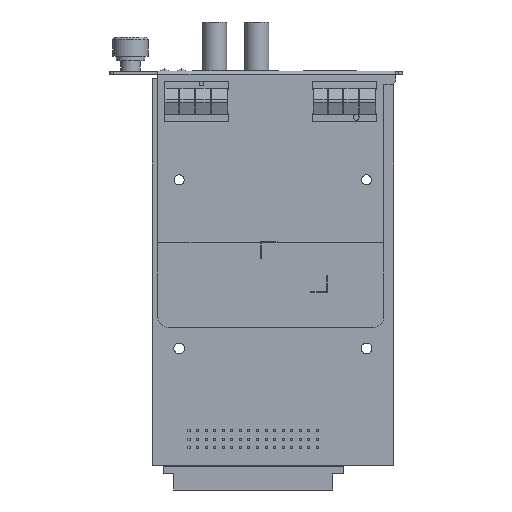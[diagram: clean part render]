
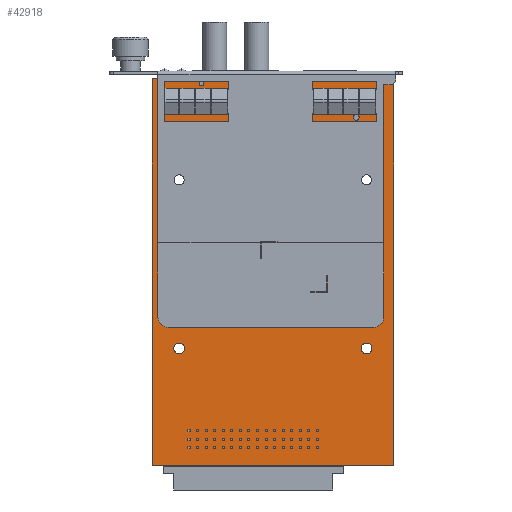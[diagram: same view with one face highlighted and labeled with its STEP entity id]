
A CAD part, front view. The second image highlights one B-rep face of the part: STEP entity #42918.
In plain terms, the highlighted planar face has unit normal (0, -1, 0).
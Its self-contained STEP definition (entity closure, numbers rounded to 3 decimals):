
#42584=DIRECTION('',(1.,0.,0.));
#42585=VECTOR('',#42584,71.6);
#42586=CARTESIAN_POINT('',(-35.8,0.,58.5));
#42587=LINE('',#42586,#42585);
#42598=DIRECTION('',(0.,0.,-1.));
#42599=VECTOR('',#42598,114.8);
#42600=CARTESIAN_POINT('',(-35.8,0.,58.5));
#42601=LINE('',#42600,#42599);
#42605=DIRECTION('',(0.,0.,1.));
#42606=VECTOR('',#42605,114.8);
#42607=CARTESIAN_POINT('',(35.8,0.,-56.3));
#42608=LINE('',#42607,#42606);
#42612=DIRECTION('',(1.,0.,0.));
#42613=VECTOR('',#42612,71.6);
#42614=CARTESIAN_POINT('',(-35.8,0.,-56.3));
#42615=LINE('',#42614,#42613);
#42619=CARTESIAN_POINT('',(27.8,0.,28.5));
#42620=DIRECTION('',(0.,1.,0.));
#42621=DIRECTION('',(0.,0.,-1.));
#42622=AXIS2_PLACEMENT_3D('',#42619,#42620,#42621);
#42627=CARTESIAN_POINT('',(27.8,0.,28.5));
#42628=DIRECTION('',(0.,1.,0.));
#42629=DIRECTION('',(0.,0.,1.));
#42630=AXIS2_PLACEMENT_3D('',#42627,#42628,#42629);
#42635=CARTESIAN_POINT('',(-27.8,0.,28.5));
#42636=DIRECTION('',(0.,1.,0.));
#42637=DIRECTION('',(0.,0.,-1.));
#42638=AXIS2_PLACEMENT_3D('',#42635,#42636,#42637);
#42643=CARTESIAN_POINT('',(-27.8,0.,28.5));
#42644=DIRECTION('',(0.,1.,0.));
#42645=DIRECTION('',(0.,0.,1.));
#42646=AXIS2_PLACEMENT_3D('',#42643,#42644,#42645);
#42651=CARTESIAN_POINT('',(27.8,0.,-21.5));
#42652=DIRECTION('',(0.,1.,0.));
#42653=DIRECTION('',(0.,0.,-1.));
#42654=AXIS2_PLACEMENT_3D('',#42651,#42652,#42653);
#42659=CARTESIAN_POINT('',(27.8,0.,-21.5));
#42660=DIRECTION('',(0.,1.,0.));
#42661=DIRECTION('',(0.,0.,1.));
#42662=AXIS2_PLACEMENT_3D('',#42659,#42660,#42661);
#42667=CARTESIAN_POINT('',(-27.8,0.,-21.5));
#42668=DIRECTION('',(0.,1.,0.));
#42669=DIRECTION('',(0.,0.,-1.));
#42670=AXIS2_PLACEMENT_3D('',#42667,#42668,#42669);
#42675=CARTESIAN_POINT('',(-27.8,0.,-21.5));
#42676=DIRECTION('',(0.,1.,0.));
#42677=DIRECTION('',(0.,0.,1.));
#42678=AXIS2_PLACEMENT_3D('',#42675,#42676,#42677);
#42743=CARTESIAN_POINT('',(35.8,0.,58.5));
#42744=VERTEX_POINT('',#42743);
#42753=CARTESIAN_POINT('',(-35.8,0.,58.5));
#42754=CARTESIAN_POINT('',(-35.8,0.,-56.3));
#42755=VERTEX_POINT('',#42753);
#42756=VERTEX_POINT('',#42754);
#42761=CARTESIAN_POINT('',(35.8,0.,-56.3));
#42762=VERTEX_POINT('',#42761);
#42763=CARTESIAN_POINT('',(27.8,0.,26.9));
#42764=CARTESIAN_POINT('',(27.8,0.,30.1));
#42765=VERTEX_POINT('',#42763);
#42766=VERTEX_POINT('',#42764);
#42771=CARTESIAN_POINT('',(-27.8,0.,30.1));
#42772=VERTEX_POINT('',#42771);
#42773=CARTESIAN_POINT('',(-27.8,0.,26.9));
#42774=VERTEX_POINT('',#42773);
#42779=CARTESIAN_POINT('',(27.8,0.,-23.1));
#42780=CARTESIAN_POINT('',(27.8,0.,-19.9));
#42781=VERTEX_POINT('',#42779);
#42782=VERTEX_POINT('',#42780);
#42783=CARTESIAN_POINT('',(-27.8,0.,-19.9));
#42784=VERTEX_POINT('',#42783);
#42785=CARTESIAN_POINT('',(-27.8,0.,-23.1));
#42786=VERTEX_POINT('',#42785);
#42883=CARTESIAN_POINT('',(0.,0.,0.));
#42884=DIRECTION('',(0.,-1.,0.));
#42885=DIRECTION('',(0.,0.,-1.));
#42886=AXIS2_PLACEMENT_3D('',#42883,#42884,#42885);
#42887=PLANE('',#42886);
#42888=ORIENTED_EDGE('',*,*,#42863,.F.);
#42889=ORIENTED_EDGE('',*,*,#42876,.T.);
#42890=ORIENTED_EDGE('',*,*,#42834,.F.);
#42891=ORIENTED_EDGE('',*,*,#42849,.F.);
#42892=EDGE_LOOP('',(#42888,#42889,#42890,#42891));
#42893=FACE_OUTER_BOUND('',#42892,.F.);
#42895=ORIENTED_EDGE('',*,*,#42894,.F.);
#42897=ORIENTED_EDGE('',*,*,#42896,.F.);
#42898=EDGE_LOOP('',(#42895,#42897));
#42899=FACE_BOUND('',#42898,.F.);
#42901=ORIENTED_EDGE('',*,*,#42900,.F.);
#42903=ORIENTED_EDGE('',*,*,#42902,.F.);
#42904=EDGE_LOOP('',(#42901,#42903));
#42905=FACE_BOUND('',#42904,.F.);
#42907=ORIENTED_EDGE('',*,*,#42906,.F.);
#42909=ORIENTED_EDGE('',*,*,#42908,.F.);
#42910=EDGE_LOOP('',(#42907,#42909));
#42911=FACE_BOUND('',#42910,.F.);
#42913=ORIENTED_EDGE('',*,*,#42912,.F.);
#42915=ORIENTED_EDGE('',*,*,#42914,.F.);
#42916=EDGE_LOOP('',(#42913,#42915));
#42917=FACE_BOUND('',#42916,.F.);
#42623=CIRCLE('',#42622,1.6);
#42631=CIRCLE('',#42630,1.6);
#42639=CIRCLE('',#42638,1.6);
#42647=CIRCLE('',#42646,1.6);
#42655=CIRCLE('',#42654,1.6);
#42663=CIRCLE('',#42662,1.6);
#42671=CIRCLE('',#42670,1.6);
#42679=CIRCLE('',#42678,1.6);
#42834=EDGE_CURVE('',#42762,#42744,#42608,.T.);
#42849=EDGE_CURVE('',#42756,#42762,#42615,.T.);
#42863=EDGE_CURVE('',#42755,#42756,#42601,.T.);
#42876=EDGE_CURVE('',#42755,#42744,#42587,.T.);
#42894=EDGE_CURVE('',#42765,#42766,#42623,.T.);
#42896=EDGE_CURVE('',#42766,#42765,#42631,.T.);
#42900=EDGE_CURVE('',#42774,#42772,#42639,.T.);
#42902=EDGE_CURVE('',#42772,#42774,#42647,.T.);
#42906=EDGE_CURVE('',#42781,#42782,#42655,.T.);
#42908=EDGE_CURVE('',#42782,#42781,#42663,.T.);
#42912=EDGE_CURVE('',#42786,#42784,#42671,.T.);
#42914=EDGE_CURVE('',#42784,#42786,#42679,.T.);
#42918=ADVANCED_FACE('',(#42893,#42899,#42905,#42911,#42917),#42887,.T.);
